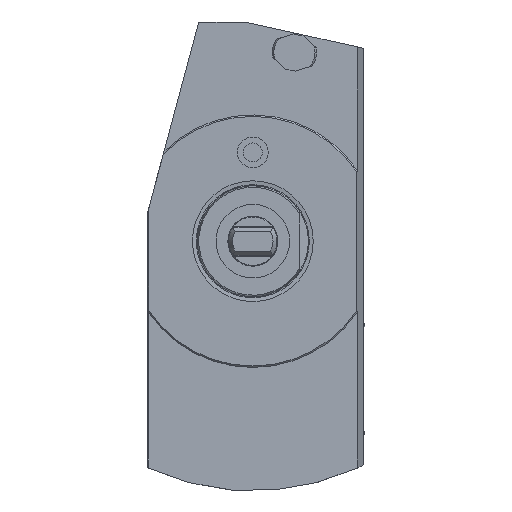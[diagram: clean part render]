
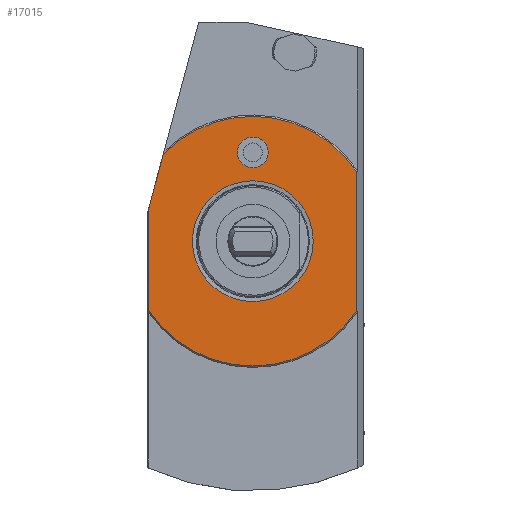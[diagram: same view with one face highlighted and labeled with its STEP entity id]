
A CAD part, left-side view. The second image highlights one B-rep face of the part: STEP entity #17015.
In plain terms, the highlighted planar face has unit normal (-1, 0, 0) as drawn and (0, 1, 0) by its records, which use the part's own axes.
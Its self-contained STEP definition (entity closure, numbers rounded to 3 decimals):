
#556=CIRCLE('',#16334,45.);
#557=CIRCLE('',#16337,45.);
#558=CIRCLE('',#16338,5.55);
#559=CIRCLE('',#16339,21.765);
#1975=ORIENTED_EDGE('',*,*,#4279,.F.);
#1976=ORIENTED_EDGE('',*,*,#4292,.F.);
#1977=ORIENTED_EDGE('',*,*,#4336,.F.);
#1978=ORIENTED_EDGE('',*,*,#4337,.F.);
#1979=ORIENTED_EDGE('',*,*,#4334,.F.);
#1980=ORIENTED_EDGE('',*,*,#4338,.T.);
#1981=ORIENTED_EDGE('',*,*,#4339,.T.);
#2640=VECTOR('',#6725,1.);
#2650=VECTOR('',#6743,1.);
#2685=VECTOR('',#6822,1.);
#2992=LINE('',#11066,#2640);
#3002=LINE('',#11090,#2650);
#3037=LINE('',#11178,#2685);
#3511=VERTEX_POINT('',#11062);
#3513=VERTEX_POINT('',#11065);
#3523=VERTEX_POINT('',#11088);
#3553=VERTEX_POINT('',#11172);
#3554=VERTEX_POINT('',#11176);
#3555=VERTEX_POINT('',#11179);
#3556=VERTEX_POINT('',#11181);
#4279=EDGE_CURVE('',#3511,#3513,#2992,.T.);
#4292=EDGE_CURVE('',#3523,#3511,#3002,.T.);
#4334=EDGE_CURVE('',#3513,#3553,#556,.T.);
#4336=EDGE_CURVE('',#3554,#3523,#557,.T.);
#4337=EDGE_CURVE('',#3553,#3554,#3037,.T.);
#4338=EDGE_CURVE('',#3555,#3555,#558,.T.);
#4339=EDGE_CURVE('',#3556,#3556,#559,.T.);
#4852=EDGE_LOOP('',(#1975,#1976,#1977,#1978,#1979));
#4853=EDGE_LOOP('',(#1980));
#4854=EDGE_LOOP('',(#1981));
#5339=FACE_BOUND('',#4852,.T.);
#5340=FACE_BOUND('',#4853,.T.);
#5341=FACE_BOUND('',#4854,.T.);
#6725=DIRECTION('',(19.489,0.,5.222));
#6743=DIRECTION('',(36.741,0.,0.));
#6814=DIRECTION('',(0.,-1.,0.));
#6815=DIRECTION('',(31.355,0.,-32.278));
#6818=DIRECTION('',(0.,1.,0.));
#6819=DIRECTION('',(1.,0.,0.));
#6820=DIRECTION('',(0.,-1.,0.));
#6821=DIRECTION('',(-24.875,0.,37.5));
#6822=DIRECTION('',(-49.749,0.,0.));
#6823=DIRECTION('',(0.,-1.,0.));
#6824=DIRECTION('',(0.,0.,-5.55));
#6825=DIRECTION('',(0.,-1.,0.));
#6826=DIRECTION('',(0.,0.,-21.765));
#11062=CARTESIAN_POINT('',(11.866,0.,-37.5));
#11065=CARTESIAN_POINT('',(31.355,0.,-32.278));
#11066=CARTESIAN_POINT('',(11.866,0.,-37.5));
#11088=CARTESIAN_POINT('',(-24.875,0.,-37.5));
#11090=CARTESIAN_POINT('',(-24.875,0.,-37.5));
#11172=CARTESIAN_POINT('',(24.875,0.,37.5));
#11173=CARTESIAN_POINT('',(0.,0.,0.));
#11175=CARTESIAN_POINT('',(33.,0.,25.));
#11176=CARTESIAN_POINT('',(-24.875,0.,37.5));
#11177=CARTESIAN_POINT('',(0.,0.,0.));
#11178=CARTESIAN_POINT('',(24.875,0.,37.5));
#11179=CARTESIAN_POINT('',(32.,0.,-5.55));
#11180=CARTESIAN_POINT('',(32.,0.,0.));
#11181=CARTESIAN_POINT('',(0.,0.,-21.765));
#11182=CARTESIAN_POINT('',(0.,0.,0.));
#16334=AXIS2_PLACEMENT_3D('',#11173,#6814,#6815);
#16336=AXIS2_PLACEMENT_3D('',#11175,#6818,#6819);
#16337=AXIS2_PLACEMENT_3D('',#11177,#6820,#6821);
#16338=AXIS2_PLACEMENT_3D('',#11180,#6823,#6824);
#16339=AXIS2_PLACEMENT_3D('',#11182,#6825,#6826);
#16699=PLANE('',#16336);
#17015=ADVANCED_FACE('',(#5339,#5340,#5341),#16699,.T.);
